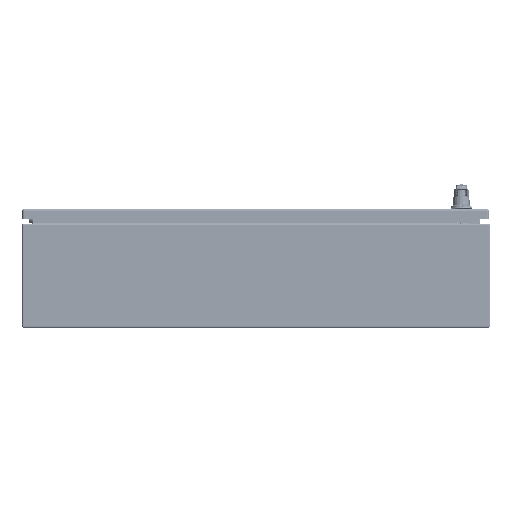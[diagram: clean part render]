
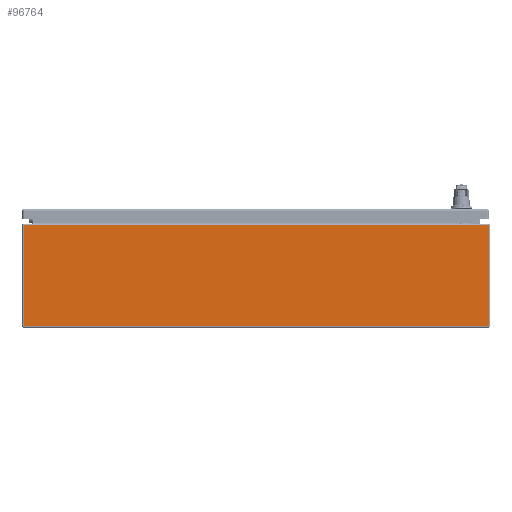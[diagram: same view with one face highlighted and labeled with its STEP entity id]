
A CAD part, front view. The second image highlights one B-rep face of the part: STEP entity #96764.
In plain terms, the highlighted planar face has unit normal (0, -1, 0).
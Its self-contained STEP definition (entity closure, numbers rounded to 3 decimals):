
#8546=LINE('',#138055,#14821);
#8549=LINE('',#138077,#14824);
#8550=LINE('',#138079,#14825);
#8551=LINE('',#138080,#14826);
#14821=VECTOR('',#113209,0.394);
#14824=VECTOR('',#113240,0.394);
#14825=VECTOR('',#113241,0.394);
#14826=VECTOR('',#113242,0.394);
#22703=FACE_OUTER_BOUND('',#28662,.T.);
#28662=EDGE_LOOP('',(#64724,#64725,#64726,#64727));
#39547=VERTEX_POINT('',#138044);
#39550=VERTEX_POINT('',#138054);
#39555=VERTEX_POINT('',#138076);
#39556=VERTEX_POINT('',#138078);
#49311=EDGE_CURVE('',#39547,#39550,#8546,.T.);
#49322=EDGE_CURVE('',#39555,#39547,#8549,.T.);
#49323=EDGE_CURVE('',#39555,#39556,#8550,.T.);
#49324=EDGE_CURVE('',#39550,#39556,#8551,.T.);
#64724=ORIENTED_EDGE('',*,*,#49311,.F.);
#64725=ORIENTED_EDGE('',*,*,#49322,.F.);
#64726=ORIENTED_EDGE('',*,*,#49323,.T.);
#64727=ORIENTED_EDGE('',*,*,#49324,.F.);
#94818=PLANE('',#103849);
#96764=ADVANCED_FACE('',(#22703),#94818,.T.);
#103849=AXIS2_PLACEMENT_3D('',#138075,#113238,#113239);
#113209=DIRECTION('',(1.,0.,0.));
#113238=DIRECTION('center_axis',(0.,-1.,0.));
#113239=DIRECTION('ref_axis',(-1.,0.,0.));
#113240=DIRECTION('',(0.,0.,1.));
#113241=DIRECTION('',(1.,0.,0.));
#113242=DIRECTION('',(0.,0.,-1.));
#138044=CARTESIAN_POINT('',(-17.901,-30.,7.901));
#138054=CARTESIAN_POINT('',(17.901,-30.,7.901));
#138055=CARTESIAN_POINT('',(0.025,-30.,7.901));
#138075=CARTESIAN_POINT('Origin',(18.,-30.,8.));
#138076=CARTESIAN_POINT('',(-17.901,-30.,0.099));
#138077=CARTESIAN_POINT('',(-17.901,-30.,4.));
#138078=CARTESIAN_POINT('',(17.901,-30.,0.099));
#138079=CARTESIAN_POINT('',(-8.951,-30.,0.099));
#138080=CARTESIAN_POINT('',(17.901,-30.,4.));
